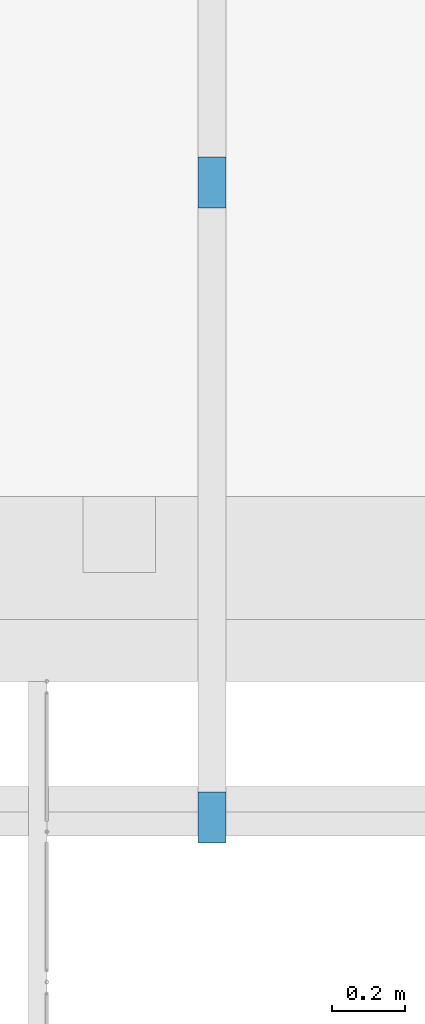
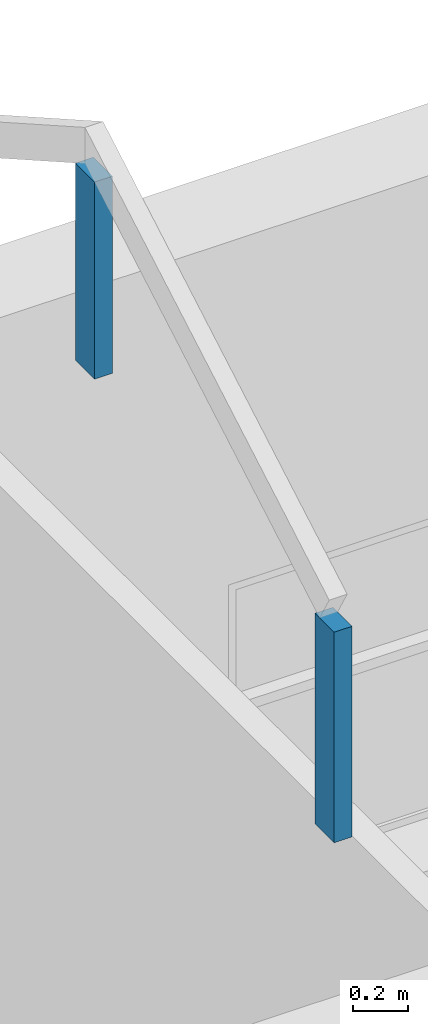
# One storey, part 60 of 153: 2 members, 1 element without a shape of its own.
"""IFC4 building model written with IfcOpenShell, lengths in metres."""

from ifc_helpers import new_model, entity, si_unit, converted_unit, derived_unit, direction, frame, origin, place, context, subcontext, project, spatial, indexed_curve, outline, extrude, source, transform, mapped, material, type_object, type_shapes, element, aggregate, save


model = new_model("IFC4")

# Units and contexts
model_context = context("Model", 3, precision=1e-05, world=origin(), true_north=direction((6.123031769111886e-17, 1.0)))
body_context = subcontext(model_context, "Body", "Model", "MODEL_VIEW")
ifc_project = project(units=[si_unit("LENGTHUNIT", "METRE"), si_unit("AREAUNIT", "SQUARE_METRE"), si_unit("VOLUMEUNIT", "CUBIC_METRE"), converted_unit("PLANEANGLEUNIT", "DEGREE", entity("IfcRatioMeasure", 0.017453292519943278), si_unit("PLANEANGLEUNIT", "RADIAN"), dimensions=[0, 0, 0, 0, 0, 0, 0]), si_unit("MASSUNIT", "GRAM", prefix="KILO"), derived_unit("MASSDENSITYUNIT", [(si_unit("MASSUNIT", "GRAM", prefix="KILO"), 1), (si_unit("LENGTHUNIT", "METRE"), -3)]), derived_unit("MOMENTOFINERTIAUNIT", [(si_unit("LENGTHUNIT", "METRE"), 4)]), si_unit("TIMEUNIT", "SECOND"), si_unit("FREQUENCYUNIT", "HERTZ"), si_unit("THERMODYNAMICTEMPERATUREUNIT", "DEGREE_CELSIUS"), derived_unit("THERMALTRANSMITTANCEUNIT", [(si_unit("MASSUNIT", "GRAM", prefix="KILO"), 1), (si_unit("THERMODYNAMICTEMPERATUREUNIT", "KELVIN"), -1), (si_unit("TIMEUNIT", "SECOND"), -3)]), derived_unit("VOLUMETRICFLOWRATEUNIT", [(si_unit("LENGTHUNIT", "METRE"), 3), (si_unit("TIMEUNIT", "SECOND"), -1)]), derived_unit("MASSFLOWRATEUNIT", [(si_unit("MASSUNIT", "GRAM", prefix="KILO"), 1), (si_unit("TIMEUNIT", "SECOND"), -1)]), derived_unit("ROTATIONALFREQUENCYUNIT", [(si_unit("TIMEUNIT", "SECOND"), -1)]), si_unit("ELECTRICCURRENTUNIT", "AMPERE"), si_unit("ELECTRICVOLTAGEUNIT", "VOLT"), si_unit("POWERUNIT", "WATT"), si_unit("FORCEUNIT", "NEWTON", prefix="KILO"), si_unit("ILLUMINANCEUNIT", "LUX"), si_unit("LUMINOUSFLUXUNIT", "LUMEN"), si_unit("LUMINOUSINTENSITYUNIT", "CANDELA"), derived_unit("USERDEFINED", [(si_unit("MASSUNIT", "GRAM", prefix="KILO"), -1), (si_unit("LENGTHUNIT", "METRE"), -2), (si_unit("TIMEUNIT", "SECOND"), 3), (si_unit("LUMINOUSFLUXUNIT", "LUMEN"), 1)]), derived_unit("SOUNDPOWERUNIT", [(si_unit("MASSUNIT", "GRAM", prefix="KILO"), 1), (si_unit("LENGTHUNIT", "METRE"), 2), (si_unit("TIMEUNIT", "SECOND"), -3)]), derived_unit("SOUNDPRESSUREUNIT", [(si_unit("MASSUNIT", "GRAM", prefix="KILO"), 1), (si_unit("LENGTHUNIT", "METRE"), -1), (si_unit("TIMEUNIT", "SECOND"), -2)]), derived_unit("LINEARVELOCITYUNIT", [(si_unit("LENGTHUNIT", "METRE"), 1), (si_unit("TIMEUNIT", "SECOND"), -1)]), si_unit("PRESSUREUNIT", "PASCAL"), derived_unit("USERDEFINED", [(si_unit("LENGTHUNIT", "METRE"), -2), (si_unit("MASSUNIT", "GRAM", prefix="KILO"), 1), (si_unit("TIMEUNIT", "SECOND"), -2)]), derived_unit("LINEARFORCEUNIT", [(si_unit("MASSUNIT", "GRAM", prefix="KILO"), 1), (si_unit("LENGTHUNIT", "METRE"), 1), (si_unit("TIMEUNIT", "SECOND"), -2), (si_unit("LENGTHUNIT", "METRE"), -1)]), derived_unit("PLANARFORCEUNIT", [(si_unit("MASSUNIT", "GRAM", prefix="KILO"), 1), (si_unit("LENGTHUNIT", "METRE"), 1), (si_unit("TIMEUNIT", "SECOND"), -2), (si_unit("LENGTHUNIT", "METRE"), -2)])], contexts=[model_context])

# Site, building, storey
site_placement = place(None, origin())
site = spatial("IfcSite", under=ifc_project, at=site_placement, Name="Superficie", CompositionType="ELEMENT")
building_placement = place(site_placement, origin())
building = spatial("IfcBuilding", under=site, at=building_placement, CompositionType="ELEMENT")
storey_placement = place(building_placement, frame((0.0, 0.0, 3.5999999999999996)))
storey = spatial("IfcBuildingStorey", under=building, at=storey_placement, Name="Nivel 1", CompositionType="ELEMENT", Elevation=3.5999999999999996)

# Assembly, members
assembly_placement = place(storey_placement, origin())
assembly = element("IfcElementAssembly", 1, at=assembly_placement, inside=storey, Name="Cercha superior:Cercha superior", ObjectType="Cercha superior:Cercha superior", AssemblyPlace="NOTDEFINED", PredefinedType="TRUSS")
ifc_material = material(Name="Madera - Madera de construcción", Category="Madera")
member_type_1 = type_object("IfcMemberType", Name="Glulam-Pino del sur:76X140", PredefinedType="BRACE", material=ifc_material)
shared_shape_1 = source(origin(), body_context, "Body", "SweptSolid", [
    extrude(outline(indexed_curve([(-0.06999999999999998, -0.03800000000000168), (0.06999999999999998, -0.03800000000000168), (0.06999999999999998, 0.03800000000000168), (-0.06999999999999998, 0.03800000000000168), (-0.06999999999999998, -0.03800000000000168)], self_intersect=False)), frame((-0.5000000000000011, 0.0, 0.0), z_axis=(1.0, 0.0, 0.0), x_axis=(0.0, 0.0, -1.0)), (0.0, 0.0, 1.0), 0.939000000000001),
])
type_shapes(member_type_1, [shared_shape_1])
member_1_placement = place(building_placement, frame((-8.158073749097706, -3.7086724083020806, 20.687397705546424), z_axis=(0.0, -1.0, 0.0), x_axis=(0.0, 0.0, 1.0)))
member_1 = element("IfcMember", 2, at=member_1_placement, type_object=member_type_1, material=ifc_material, Name="Glulam-Pino del sur:76X140", ObjectType="Glulam-Pino del sur:76X140", PredefinedType="BRACE", context=body_context, shape_type="MappedRepresentation", body=[
    mapped(shared_shape_1, transform((0.0, 0.0, 0.0), scale=1.0)),
])
member_type_2 = type_object("IfcMemberType", Name="Glulam-Pino del sur:76X140", PredefinedType="BRACE", material=ifc_material)
shared_shape_2 = source(origin(), body_context, "Body", "SweptSolid", [
    extrude(outline(indexed_curve([(-0.06999999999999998, -0.03800000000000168), (0.06999999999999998, -0.03800000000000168), (0.06999999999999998, 0.03800000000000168), (-0.06999999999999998, 0.03800000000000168), (-0.06999999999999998, -0.03800000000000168)], self_intersect=False)), frame((-0.5000000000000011, 0.0, 0.0), z_axis=(1.0, 0.0, 0.0), x_axis=(0.0, 0.0, -1.0)), (0.0, 0.0, 1.0), 0.8790000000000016),
])
type_shapes(member_type_2, [shared_shape_2])
member_2_placement = place(building_placement, frame((-8.158073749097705, -1.958683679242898, 21.69367848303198), z_axis=(0.0, -1.0, 0.0), x_axis=(0.0, 0.0, 1.0)))
member_2 = element("IfcMember", 3, at=member_2_placement, type_object=member_type_2, material=ifc_material, Name="Glulam-Pino del sur:76X140", ObjectType="Glulam-Pino del sur:76X140", PredefinedType="BRACE", context=body_context, shape_type="MappedRepresentation", body=[
    mapped(shared_shape_2, transform((0.0, 0.0, 0.0), scale=1.0)),
])
aggregate(assembly, [member_1, member_2])

save(model, "model.ifc")
